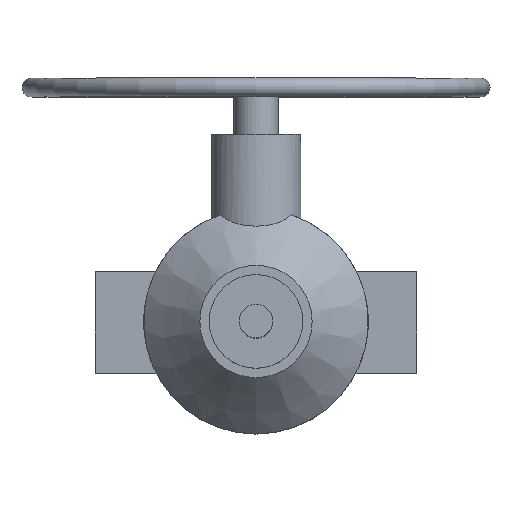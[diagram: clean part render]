
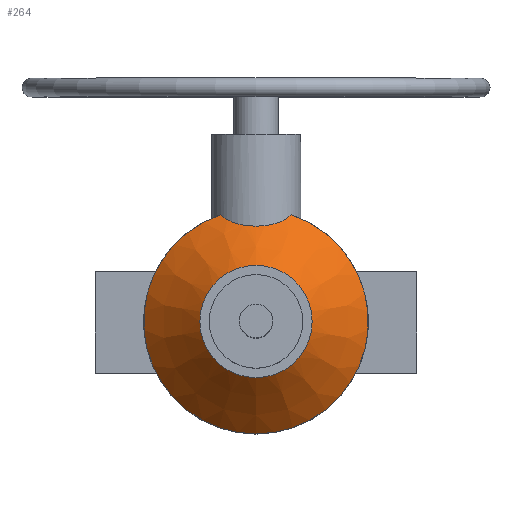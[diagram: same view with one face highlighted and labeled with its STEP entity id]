
A CAD part, top view. The second image highlights one B-rep face of the part: STEP entity #264.
In plain terms, the highlighted conical face has half-angle 45 degrees and reference radius 45 mm.
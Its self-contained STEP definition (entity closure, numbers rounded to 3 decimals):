
#264=ADVANCED_FACE('',(#1228,#1230),#1232,.T.);
#1228=FACE_BOUND('',#1229,.T.);
#1229=EDGE_LOOP('',(#2025,#2026,#2027,#2028));
#1230=FACE_OUTER_BOUND('',#1231,.T.);
#1231=EDGE_LOOP('',(#2029));
#1232=CONICAL_SURFACE('',#1233,45.,0.785);
#1233=AXIS2_PLACEMENT_3D('',#1234,#1235,#1236);
#1234=CARTESIAN_POINT('',(0.,0.,427.));
#1235=DIRECTION('',(0.,0.,-1.));
#1236=DIRECTION('',(0.,-1.,0.));
#2025=ORIENTED_EDGE('',*,*,#2488,.F.);
#2026=ORIENTED_EDGE('',*,*,#2489,.F.);
#2027=ORIENTED_EDGE('',*,*,#2490,.F.);
#2028=ORIENTED_EDGE('',*,*,#2491,.F.);
#2029=ORIENTED_EDGE('',*,*,#2473,.T.);
#2473=EDGE_CURVE('',#2765,#2765,#2766,.T.);
#2488=EDGE_CURVE('',#2791,#2792,#2793,.F.);
#2489=EDGE_CURVE('',#2794,#2791,#2795,.F.);
#2490=EDGE_CURVE('',#2796,#2794,#2797,.T.);
#2491=EDGE_CURVE('',#2792,#2796,#2798,.T.);
#2765=VERTEX_POINT('',#3304);
#2766=CIRCLE('',#3305,30.);
#2791=VERTEX_POINT('',#3363);
#2792=VERTEX_POINT('',#3364);
#2793=B_SPLINE_CURVE_WITH_KNOTS('',3,
(#3365,#3366,#3367,#3368,#3369,#3370,#3371,#3372,#3373,#3374,#3375,#3376,#3377,#3378,
#3379,#3380,#3381,#3382,#3383,#3384,#3385,#3386,#3387,#3388,#3389,#3390,#3391,#3392,
#3393,#3394,#3395,#3396,#3397,#3398,#3399,#3400,#3401,#3402,#3403,#3404,#3405,#3406,
#3407,#3408),
.UNSPECIFIED.,.F.,.F.,
(4,1,1,1,1,1,1,1,1,1,1,1,1,1,1,1,1,1,1,1,1,1,1,1,1,1,1,1,1,1,1,1,1,1,1,1,1,1,1,1,
1,4),
(0.,0.02,0.041,0.061,0.082,
0.102,0.122,0.143,0.163,0.183,
0.204,0.224,0.245,0.266,0.287,
0.308,0.329,0.351,0.375,0.401,
0.441,0.481,0.521,0.551,0.581,
0.621,0.661,0.701,0.735,0.766,
0.794,0.814,0.834,0.853,0.873,
0.892,0.91,0.929,0.947,0.965,
0.982,1.),
.UNSPECIFIED.);
#2794=VERTEX_POINT('',#3409);
#2795=B_SPLINE_CURVE_WITH_KNOTS('',3,
(#3410,#3411,#3412,#3413,#3414,#3415,#3416,#3417,#3418,#3419,#3420,#3421,#3422,#3423,
#3424,#3425,#3426,#3427,#3428,#3429,#3430,#3431,#3432,#3433,#3434,#3435,#3436,#3437,
#3438,#3439,#3440,#3441,#3442,#3443,#3444,#3445,#3446,#3447,#3448,#3449,#3450,#3451,
#3452),
.UNSPECIFIED.,.F.,.F.,
(4,1,1,1,1,1,1,1,1,1,1,1,1,1,1,1,1,1,1,1,1,1,1,1,1,1,1,1,1,1,1,1,1,1,1,1,1,1,1,1,
4),
(0.,0.024,0.047,0.071,0.095,
0.118,0.145,0.173,0.216,0.258,
0.3,0.337,0.371,0.403,0.43,
0.459,0.501,0.543,0.584,0.62,
0.652,0.681,0.703,0.724,0.744,
0.764,0.783,0.802,0.82,0.838,
0.855,0.871,0.887,0.903,0.918,
0.932,0.946,0.96,0.974,0.987,
1.),
.UNSPECIFIED.);
#2796=VERTEX_POINT('',#3453);
#2797=CIRCLE('',#3454,60.);
#2798=CIRCLE('',#3458,60.);
#3304=CARTESIAN_POINT('',(0.,-30.,442.));
#3305=AXIS2_PLACEMENT_3D('',#3306,#3307,#3308);
#3306=CARTESIAN_POINT('',(0.,0.,442.));
#3307=DIRECTION('',(0.,0.,-1.));
#3308=DIRECTION('',(0.,-1.,0.));
#3363=CARTESIAN_POINT('',(0.,51.,421.));
#3364=CARTESIAN_POINT('',(18.735,57.,412.));
#3365=CARTESIAN_POINT('',(18.735,57.,412.));
#3366=CARTESIAN_POINT('',(18.653,56.919,412.102));
#3367=CARTESIAN_POINT('',(18.487,56.759,412.306));
#3368=CARTESIAN_POINT('',(18.232,56.523,412.61));
#3369=CARTESIAN_POINT('',(17.97,56.291,412.91));
#3370=CARTESIAN_POINT('',(17.702,56.064,413.208));
#3371=CARTESIAN_POINT('',(17.428,55.841,413.502));
#3372=CARTESIAN_POINT('',(17.147,55.623,413.794));
#3373=CARTESIAN_POINT('',(16.859,55.409,414.083));
#3374=CARTESIAN_POINT('',(16.564,55.199,414.369));
#3375=CARTESIAN_POINT('',(16.262,54.994,414.652));
#3376=CARTESIAN_POINT('',(15.953,54.793,414.932));
#3377=CARTESIAN_POINT('',(15.636,54.596,415.21));
#3378=CARTESIAN_POINT('',(15.31,54.403,415.484));
#3379=CARTESIAN_POINT('',(14.976,54.214,415.756));
#3380=CARTESIAN_POINT('',(14.633,54.029,416.025));
#3381=CARTESIAN_POINT('',(14.281,53.848,416.291));
#3382=CARTESIAN_POINT('',(13.919,53.672,416.553));
#3383=CARTESIAN_POINT('',(13.534,53.493,416.822));
#3384=CARTESIAN_POINT('',(13.109,53.306,417.106));
#3385=CARTESIAN_POINT('',(12.567,53.083,417.451));
#3386=CARTESIAN_POINT('',(11.915,52.835,417.84));
#3387=CARTESIAN_POINT('',(11.159,52.577,418.254));
#3388=CARTESIAN_POINT('',(10.444,52.357,418.613));
#3389=CARTESIAN_POINT('',(9.777,52.171,418.922));
#3390=CARTESIAN_POINT('',(9.098,51.998,419.213));
#3391=CARTESIAN_POINT('',(8.34,51.825,419.51));
#3392=CARTESIAN_POINT('',(7.502,51.657,419.803));
#3393=CARTESIAN_POINT('',(6.695,51.517,420.052));
#3394=CARTESIAN_POINT('',(5.942,51.403,420.257));
#3395=CARTESIAN_POINT('',(5.267,51.314,420.418));
#3396=CARTESIAN_POINT('',(4.687,51.247,420.54));
#3397=CARTESIAN_POINT('',(4.184,51.196,420.634));
#3398=CARTESIAN_POINT('',(3.741,51.156,420.708));
#3399=CARTESIAN_POINT('',(3.304,51.121,420.773));
#3400=CARTESIAN_POINT('',(2.873,51.091,420.829));
#3401=CARTESIAN_POINT('',(2.447,51.066,420.876));
#3402=CARTESIAN_POINT('',(2.028,51.045,420.915));
#3403=CARTESIAN_POINT('',(1.614,51.028,420.947));
#3404=CARTESIAN_POINT('',(1.206,51.015,420.971));
#3405=CARTESIAN_POINT('',(0.8,51.006,420.988));
#3406=CARTESIAN_POINT('',(0.399,51.001,420.998));
#3407=CARTESIAN_POINT('',(0.133,51.,421.));
#3408=CARTESIAN_POINT('',(0.,51.,421.));
#3409=CARTESIAN_POINT('',(-18.735,57.,412.));
#3410=CARTESIAN_POINT('',(0.,51.,421.));
#3411=CARTESIAN_POINT('',(-0.179,51.,421.));
#3412=CARTESIAN_POINT('',(-0.536,51.002,420.996));
#3413=CARTESIAN_POINT('',(-1.071,51.012,420.978));
#3414=CARTESIAN_POINT('',(-1.604,51.027,420.948));
#3415=CARTESIAN_POINT('',(-2.137,51.05,420.907));
#3416=CARTESIAN_POINT('',(-2.688,51.079,420.851));
#3417=CARTESIAN_POINT('',(-3.277,51.118,420.778));
#3418=CARTESIAN_POINT('',(-4.,51.177,420.669));
#3419=CARTESIAN_POINT('',(-4.836,51.261,420.514));
#3420=CARTESIAN_POINT('',(-5.759,51.376,420.305));
#3421=CARTESIAN_POINT('',(-6.634,51.506,420.071));
#3422=CARTESIAN_POINT('',(-7.442,51.647,419.822));
#3423=CARTESIAN_POINT('',(-8.165,51.789,419.572));
#3424=CARTESIAN_POINT('',(-8.806,51.93,419.329));
#3425=CARTESIAN_POINT('',(-9.401,52.074,419.085));
#3426=CARTESIAN_POINT('',(-10.056,52.246,418.797));
#3427=CARTESIAN_POINT('',(-10.798,52.462,418.44));
#3428=CARTESIAN_POINT('',(-11.601,52.724,418.016));
#3429=CARTESIAN_POINT('',(-12.342,52.994,417.589));
#3430=CARTESIAN_POINT('',(-13.005,53.261,417.175));
#3431=CARTESIAN_POINT('',(-13.579,53.512,416.793));
#3432=CARTESIAN_POINT('',(-14.055,53.737,416.456));
#3433=CARTESIAN_POINT('',(-14.457,53.938,416.159));
#3434=CARTESIAN_POINT('',(-14.801,54.119,415.894));
#3435=CARTESIAN_POINT('',(-15.133,54.302,415.63));
#3436=CARTESIAN_POINT('',(-15.451,54.485,415.367));
#3437=CARTESIAN_POINT('',(-15.755,54.669,415.106));
#3438=CARTESIAN_POINT('',(-16.044,54.851,414.851));
#3439=CARTESIAN_POINT('',(-16.318,55.032,414.6));
#3440=CARTESIAN_POINT('',(-16.577,55.209,414.356));
#3441=CARTESIAN_POINT('',(-16.823,55.384,414.118));
#3442=CARTESIAN_POINT('',(-17.055,55.554,413.887));
#3443=CARTESIAN_POINT('',(-17.276,55.723,413.661));
#3444=CARTESIAN_POINT('',(-17.486,55.888,413.44));
#3445=CARTESIAN_POINT('',(-17.688,56.053,413.223));
#3446=CARTESIAN_POINT('',(-17.88,56.214,413.011));
#3447=CARTESIAN_POINT('',(-18.064,56.374,412.803));
#3448=CARTESIAN_POINT('',(-18.24,56.532,412.599));
#3449=CARTESIAN_POINT('',(-18.411,56.688,412.397));
#3450=CARTESIAN_POINT('',(-18.575,56.844,412.198));
#3451=CARTESIAN_POINT('',(-18.682,56.948,412.066));
#3452=CARTESIAN_POINT('',(-18.735,57.,412.));
#3453=CARTESIAN_POINT('',(0.,-60.,412.));
#3454=AXIS2_PLACEMENT_3D('',#3455,#3456,#3457);
#3455=CARTESIAN_POINT('',(0.,0.,412.));
#3456=DIRECTION('',(0.,0.,-1.));
#3457=DIRECTION('',(0.,-1.,0.));
#3458=AXIS2_PLACEMENT_3D('',#3459,#3460,#3461);
#3459=CARTESIAN_POINT('',(0.,0.,412.));
#3460=DIRECTION('',(0.,0.,-1.));
#3461=DIRECTION('',(0.312,0.95,0.));
